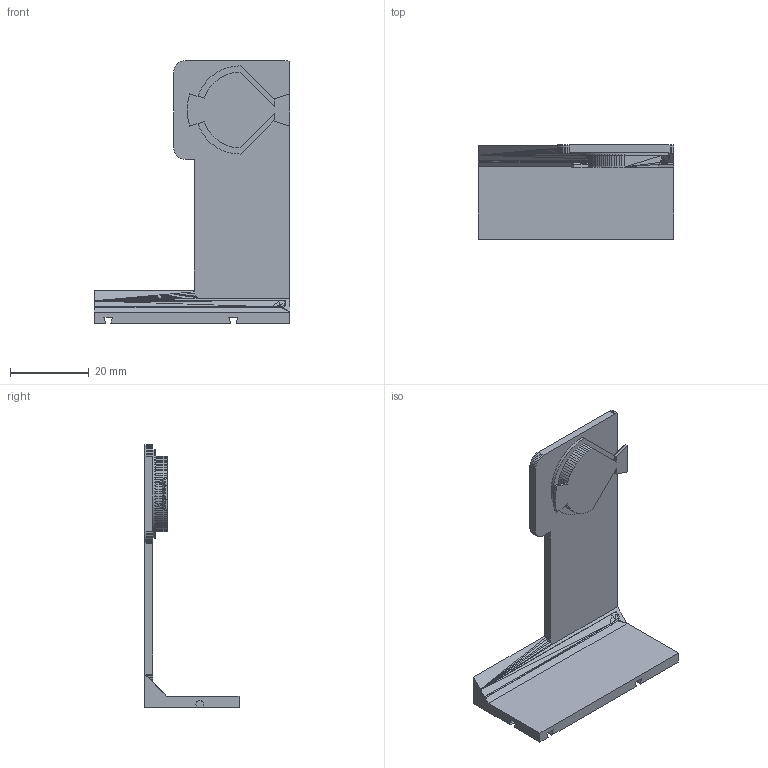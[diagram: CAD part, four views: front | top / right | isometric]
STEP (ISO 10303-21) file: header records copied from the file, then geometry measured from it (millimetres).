
FILE_DESCRIPTION(('Open CASCADE Model'),'2;1');
FILE_NAME('Open CASCADE Shape Model','2026-10-17T14:06:44',('Author'),( 'Open CASCADE'),'Open CASCADE STEP processor 8.0','build123d', 'Unknown');
FILE_SCHEMA(('AUTOMOTIVE_DESIGN { 1 0 10303 214 1 1 1 1 }'));
Length unit declared in the file: millimetre
Products named in the file (1): SOLID
Bounding box: 49.79 x 23.9 x 66.7 mm (x, y, z)
Volume: 8036.6 mm3; surface area: 7139 mm2
Topology: 1 solids, 1 shells, 452 faces, 978 edges, 530 vertices
Faces by surface type: plane 452
Entity records: 23922 total; most frequent: CARTESIAN_POINT 4253, DIRECTION 3504, LINE 2598, VECTOR 2598, ORIENTED_EDGE 1956, PCURVE 1956, DEFINITIONAL_REPRESENTATION 1956, EDGE_CURVE 978
